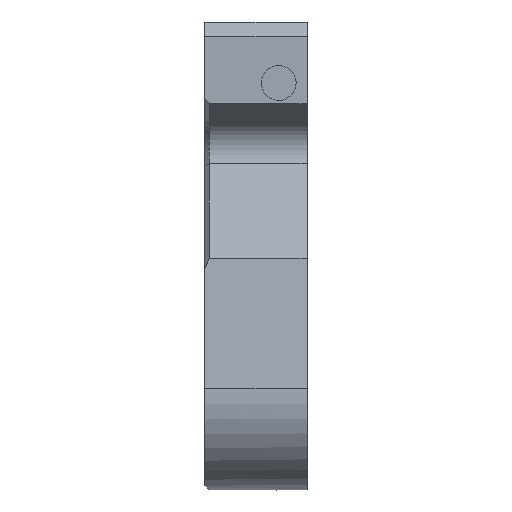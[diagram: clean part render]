
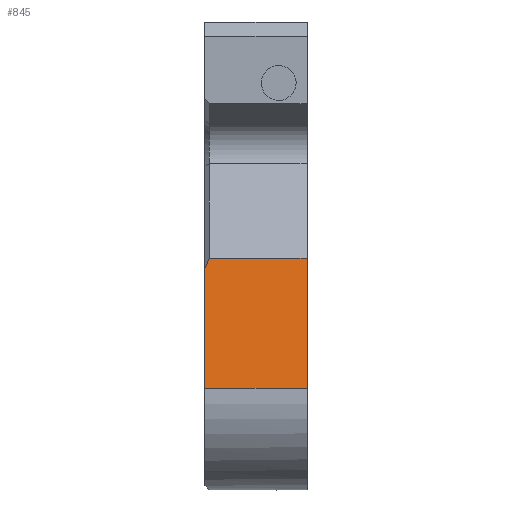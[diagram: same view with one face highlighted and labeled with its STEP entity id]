
A CAD part, left-side view. The second image highlights one B-rep face of the part: STEP entity #845.
In plain terms, the highlighted planar face has unit normal (-0.993, 0, 0.122).
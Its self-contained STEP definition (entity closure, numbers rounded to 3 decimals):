
#810=AXIS2_PLACEMENT_3D('Plane Axis2P3D',#807,#808,#809) ;
#772=CARTESIAN_POINT('Line Origine',(8.472,-7.25,7.18)) ;
#776=CARTESIAN_POINT('Vertex',(8.472,0.,7.18)) ;
#778=CARTESIAN_POINT('Vertex',(8.472,-7.2,7.18)) ;
#807=CARTESIAN_POINT('Axis2P3D Location',(9.597,-3.96,16.34)) ;
#812=CARTESIAN_POINT('Line Origine',(9.597,-3.75,16.34)) ;
#816=CARTESIAN_POINT('Vertex',(9.597,-0.3,16.34)) ;
#818=CARTESIAN_POINT('Vertex',(9.597,-7.2,16.34)) ;
#821=CARTESIAN_POINT('Line Origine',(9.55,-0.15,15.959)) ;
#825=CARTESIAN_POINT('Vertex',(9.503,0.,15.578)) ;
#828=CARTESIAN_POINT('Line Origine',(8.988,0.,11.379)) ;
#833=CARTESIAN_POINT('Line Origine',(9.035,-7.2,11.76)) ;
#773=DIRECTION('Vector Direction',(0.,-1.,0.)) ;
#808=DIRECTION('Axis2P3D Direction',(-0.993,0.,0.122)) ;
#809=DIRECTION('Axis2P3D XDirection',(-0.122,0.,-0.993)) ;
#813=DIRECTION('Vector Direction',(0.,-1.,0.)) ;
#822=DIRECTION('Vector Direction',(-0.114,0.364,-0.924)) ;
#829=DIRECTION('Vector Direction',(-0.122,0.,-0.993)) ;
#834=DIRECTION('Vector Direction',(-0.122,0.,-0.993)) ;
#774=VECTOR('Line Direction',#773,1.) ;
#814=VECTOR('Line Direction',#813,1.) ;
#823=VECTOR('Line Direction',#822,1.) ;
#830=VECTOR('Line Direction',#829,1.) ;
#835=VECTOR('Line Direction',#834,1.) ;
#839=ORIENTED_EDGE('',*,*,#820,.F.) ;
#840=ORIENTED_EDGE('',*,*,#827,.T.) ;
#841=ORIENTED_EDGE('',*,*,#832,.F.) ;
#842=ORIENTED_EDGE('',*,*,#780,.T.) ;
#843=ORIENTED_EDGE('',*,*,#837,.F.) ;
#845=ADVANCED_FACE('NO_CUT',(#844),#811,.T.) ;
#780=EDGE_CURVE('',#777,#779,#775,.T.) ;
#820=EDGE_CURVE('',#817,#819,#815,.T.) ;
#827=EDGE_CURVE('',#817,#826,#824,.T.) ;
#832=EDGE_CURVE('',#777,#826,#831,.F.) ;
#837=EDGE_CURVE('',#819,#779,#836,.T.) ;
#838=EDGE_LOOP('',(#839,#840,#841,#842,#843)) ;
#844=FACE_OUTER_BOUND('',#838,.T.) ;
#775=LINE('Line',#772,#774) ;
#815=LINE('Line',#812,#814) ;
#824=LINE('Line',#821,#823) ;
#831=LINE('Line',#828,#830) ;
#836=LINE('Line',#833,#835) ;
#811=PLANE('',#810) ;
#777=VERTEX_POINT('',#776) ;
#779=VERTEX_POINT('',#778) ;
#817=VERTEX_POINT('',#816) ;
#819=VERTEX_POINT('',#818) ;
#826=VERTEX_POINT('',#825) ;
